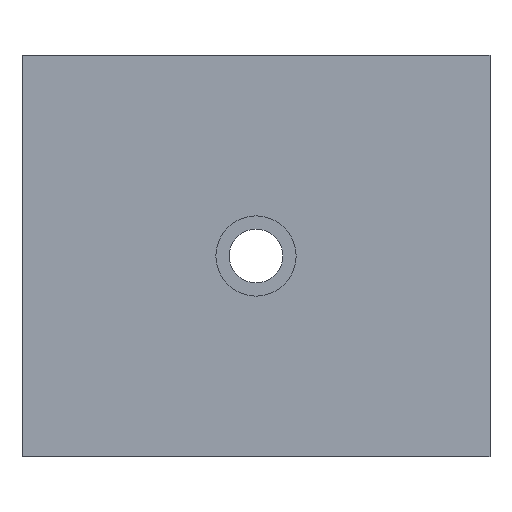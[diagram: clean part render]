
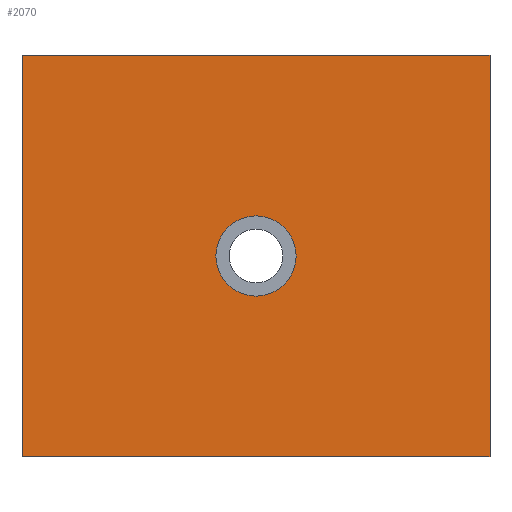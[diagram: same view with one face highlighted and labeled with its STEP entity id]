
A CAD part, front view. The second image highlights one B-rep face of the part: STEP entity #2070.
In plain terms, the highlighted planar face has unit normal (0, -1, 0).
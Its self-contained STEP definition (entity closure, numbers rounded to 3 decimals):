
#63 = FACE_BOUND ( 'NONE', #3886, .T. ) ;
#82 = FACE_OUTER_BOUND ( 'NONE', #3241, .T. ) ;
#122 = VECTOR ( 'NONE', #3386, 1000. ) ;
#209 = ORIENTED_EDGE ( 'NONE', *, *, #1644, .F. ) ;
#503 = CARTESIAN_POINT ( 'NONE',  ( 0., -22.5, 3. ) ) ;
#575 = VERTEX_POINT ( 'NONE', #3807 ) ;
#687 = ORIENTED_EDGE ( 'NONE', *, *, #2692, .F. ) ;
#719 = VECTOR ( 'NONE', #936, 1000. ) ;
#936 = DIRECTION ( 'NONE',  ( 0., 0., -1. ) ) ;
#1118 = EDGE_CURVE ( 'NONE', #4206, #3915, #4270, .T. ) ;
#1134 = ORIENTED_EDGE ( 'NONE', *, *, #1196, .T. ) ;
#1154 = AXIS2_PLACEMENT_3D ( 'NONE', #1442, #2787, #4123 ) ;
#1156 = CARTESIAN_POINT ( 'NONE',  ( 0., -22.5, 0. ) ) ;
#1168 = ORIENTED_EDGE ( 'NONE', *, *, #3183, .T. ) ;
#1196 = EDGE_CURVE ( 'NONE', #2786, #3915, #2365, .T. ) ;
#1252 = DIRECTION ( 'NONE',  ( 0., 0., -1. ) ) ;
#1266 = LINE ( 'NONE', #2618, #719 ) ;
#1322 = CARTESIAN_POINT ( 'NONE',  ( 0., -22.5, 0. ) ) ;
#1418 = PLANE ( 'NONE',  #1154 ) ;
#1442 = CARTESIAN_POINT ( 'NONE',  ( -17.5, -22.5, 15. ) ) ;
#1555 = CARTESIAN_POINT ( 'NONE',  ( 17.5, -22.5, 15. ) ) ;
#1644 = EDGE_CURVE ( 'NONE', #3121, #4206, #2381, .T. ) ;
#2003 = DIRECTION ( 'NONE',  ( 1., 0., 0. ) ) ;
#2005 = CARTESIAN_POINT ( 'NONE',  ( -17.5, -22.5, -15. ) ) ;
#2070 = ADVANCED_FACE ( 'NONE', ( #63, #82 ), #1418, .F. ) ;
#2113 = VERTEX_POINT ( 'NONE', #503 ) ;
#2340 = DIRECTION ( 'NONE',  ( 0., -1., 0. ) ) ;
#2365 = LINE ( 'NONE', #3728, #122 ) ;
#2381 = LINE ( 'NONE', #3759, #2530 ) ;
#2530 = VECTOR ( 'NONE', #2003, 1000. ) ;
#2595 = VECTOR ( 'NONE', #3988, 1000. ) ;
#2618 = CARTESIAN_POINT ( 'NONE',  ( -17.5, -22.5, 15. ) ) ;
#2655 = AXIS2_PLACEMENT_3D ( 'NONE', #1156, #4152, #2797 ) ;
#2692 = EDGE_CURVE ( 'NONE', #575, #2113, #3359, .T. ) ;
#2786 = VERTEX_POINT ( 'NONE', #2005 ) ;
#2787 = DIRECTION ( 'NONE',  ( 0., 1., 0. ) ) ;
#2797 = DIRECTION ( 'NONE',  ( 0., 0., -1. ) ) ;
#2987 = EDGE_CURVE ( 'NONE', #2113, #575, #3840, .T. ) ;
#3121 = VERTEX_POINT ( 'NONE', #4233 ) ;
#3183 = EDGE_CURVE ( 'NONE', #3121, #2786, #1266, .T. ) ;
#3241 = EDGE_LOOP ( 'NONE', ( #1134, #3993, #209, #1168 ) ) ;
#3359 = CIRCLE ( 'NONE', #3704, 3. ) ;
#3386 = DIRECTION ( 'NONE',  ( 1., 0., 0. ) ) ;
#3704 = AXIS2_PLACEMENT_3D ( 'NONE', #1322, #2340, #1252 ) ;
#3728 = CARTESIAN_POINT ( 'NONE',  ( -17.5, -22.5, -15. ) ) ;
#3759 = CARTESIAN_POINT ( 'NONE',  ( -17.5, -22.5, 15. ) ) ;
#3807 = CARTESIAN_POINT ( 'NONE',  ( 0., -22.5, -3. ) ) ;
#3833 = CARTESIAN_POINT ( 'NONE',  ( 17.5, -22.5, -15. ) ) ;
#3840 = CIRCLE ( 'NONE', #2655, 3. ) ;
#3886 = EDGE_LOOP ( 'NONE', ( #687, #4148 ) ) ;
#3915 = VERTEX_POINT ( 'NONE', #3833 ) ;
#3988 = DIRECTION ( 'NONE',  ( 0., 0., -1. ) ) ;
#3993 = ORIENTED_EDGE ( 'NONE', *, *, #1118, .F. ) ;
#4123 = DIRECTION ( 'NONE',  ( 0., 0., 1. ) ) ;
#4148 = ORIENTED_EDGE ( 'NONE', *, *, #2987, .F. ) ;
#4152 = DIRECTION ( 'NONE',  ( 0., -1., 0. ) ) ;
#4206 = VERTEX_POINT ( 'NONE', #1555 ) ;
#4233 = CARTESIAN_POINT ( 'NONE',  ( -17.5, -22.5, 15. ) ) ;
#4270 = LINE ( 'NONE', #4291, #2595 ) ;
#4291 = CARTESIAN_POINT ( 'NONE',  ( 17.5, -22.5, 15. ) ) ;
